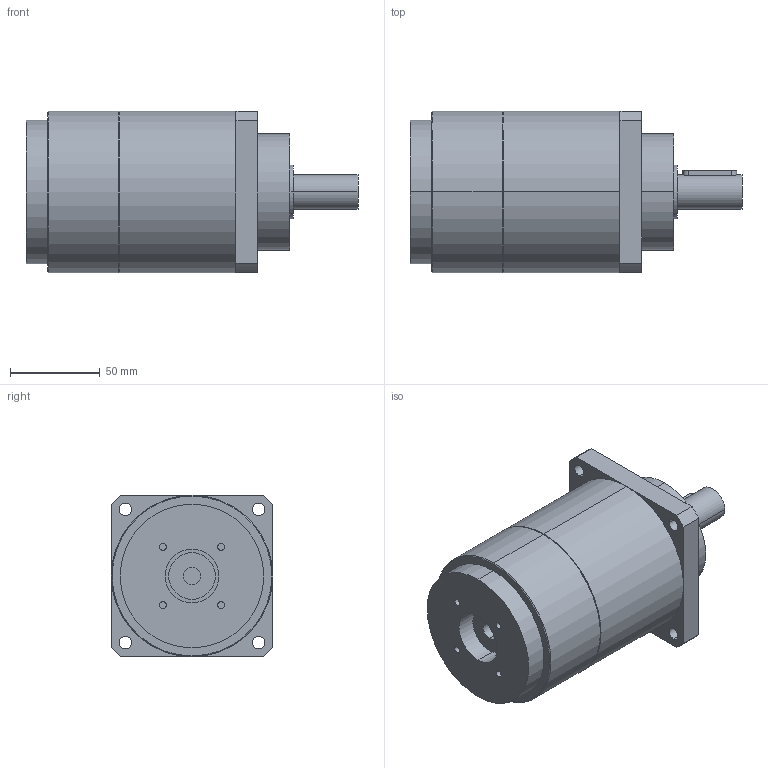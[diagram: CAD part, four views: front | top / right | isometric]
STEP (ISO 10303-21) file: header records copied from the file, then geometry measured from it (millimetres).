
FILE_DESCRIPTION(('CoCreate Modeling STEP Export'),'2;1');
FILE_NAME('GPT90_ig-9-12-16-20-25-28-35-40-50-70-100_19_B5T_9.525_P24.stp','2015-02-04T11:35:19',(''),(''),'CoCreate Modeling STEP processor for AP214 (Solid Model)','CoCreate Modeling 16.00C 25-Feb-2009 (C) Parametric Technology GmbH','');
FILE_SCHEMA(('AUTOMOTIVE_DESIGN { 1 0 10303 214 1 1 1 1 }'));
Length unit declared in the file: millimetre
Products named in the file (2): GPT90_ig-9-12-16-20-25-28-35-40-50-70-100_19_B5T_9.525_P24
Assembly tree (1 placements, depth 2):
  GPT90_ig-9-12-16-20-25-28-35-40-50-70-100_19_B5T_9.525_P24
    GPT90_ig-9-12-16-20-25-28-35-40-50-70-100_19_B5T_9.525_P24
Bounding box: 185 x 90 x 90 mm (x, y, z)
Volume: 884301.1 mm3; surface area: 63362.4 mm2
Topology: 1 solids, 1 shells, 72 faces, 182 edges, 125 vertices
Faces by surface type: cylinder 42, plane 26, cone 4
Entity records: 2313 total; most frequent: CARTESIAN_POINT 692, ORIENTED_EDGE 364, DIRECTION 272, EDGE_CURVE 182, VERTEX_POINT 125, AXIS2_PLACEMENT_3D 102, EDGE_LOOP 93, FACE_OUTER_BOUND 72
